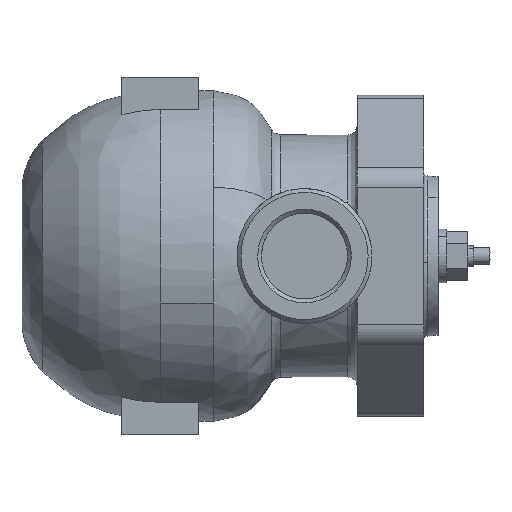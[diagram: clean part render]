
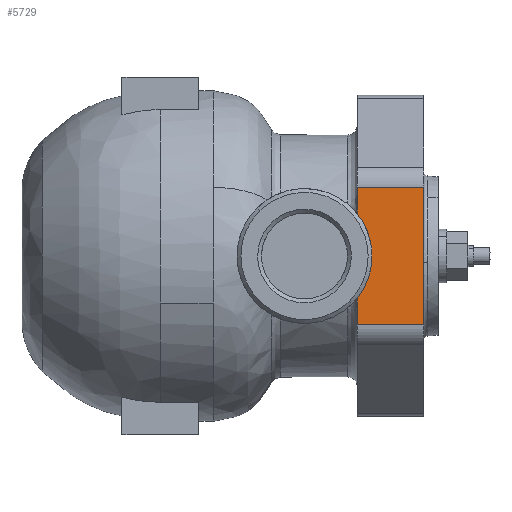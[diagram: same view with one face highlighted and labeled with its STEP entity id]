
A CAD part, left-side view. The second image highlights one B-rep face of the part: STEP entity #5729.
In plain terms, the highlighted free-form (B-spline) face has degree [1, 1] with [2, 2] control points.
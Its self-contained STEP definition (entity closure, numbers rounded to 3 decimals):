
#2667=CARTESIAN_POINT('',(-74.,-31.112,-16.212));
#2668=VERTEX_POINT('',#2667);
#2674=CARTESIAN_POINT('',(-74.,-27.5,21.784));
#2675=VERTEX_POINT('',#2674);
#2676=CARTESIAN_POINT('',(-74.,-31.112,-16.212));
#2677=CARTESIAN_POINT('',(-74.,-32.472,-13.603));
#2678=CARTESIAN_POINT('',(-74.,-34.31,-8.635));
#2679=CARTESIAN_POINT('',(-74.,-35.199,-1.829));
#2680=CARTESIAN_POINT('',(-74.,-34.969,4.487));
#2681=CARTESIAN_POINT('',(-74.,-33.796,10.07));
#2682=CARTESIAN_POINT('',(-74.,-31.319,16.229));
#2683=CARTESIAN_POINT('',(-74.,-29.066,19.807));
#2684=CARTESIAN_POINT('',(-74.,-27.5,21.784));
#2685=B_SPLINE_CURVE_WITH_KNOTS('',3,(#2676,#2677,#2678,#2679,#2680,#2681,#2682,#2683,#2684),.UNSPECIFIED.,.F.,.U.,(4,1,1,1,1,1,4),(0.,8.828,15.764,20.493,27.744,32.789,40.355),.UNSPECIFIED.);
#2686=EDGE_CURVE('',#2668,#2675,#2685,.T.);
#3100=CARTESIAN_POINT('',(-74.,-27.5,-21.784));
#3101=VERTEX_POINT('',#3100);
#3107=CARTESIAN_POINT('',(-74.,-27.5,-21.784));
#3108=CARTESIAN_POINT('',(-74.,-28.876,-20.046));
#3109=CARTESIAN_POINT('',(-74.,-30.088,-18.178));
#3110=CARTESIAN_POINT('',(-74.,-31.112,-16.212));
#3111=B_SPLINE_CURVE_WITH_KNOTS('',3,(#3107,#3108,#3109,#3110),.UNSPECIFIED.,.F.,.U.,(4,4),(0.,6.65),.UNSPECIFIED.);
#3112=EDGE_CURVE('',#3101,#2668,#3111,.T.);
#5535=CARTESIAN_POINT('',(-74.,-27.5,-35.796));
#5536=VERTEX_POINT('',#5535);
#5552=CARTESIAN_POINT('',(-74.,-27.5,-35.796));
#5553=CARTESIAN_POINT('',(-74.,-27.5,-21.784));
#5554=QUASI_UNIFORM_CURVE('',1,(#5552,#5553),.UNSPECIFIED.,.F.,.U.);
#5555=EDGE_CURVE('',#5536,#3101,#5554,.T.);
#5658=CARTESIAN_POINT('',(-74.,-62.,35.796));
#5659=VERTEX_POINT('',#5658);
#5676=CARTESIAN_POINT('',(-74.,-27.5,35.796));
#5677=VERTEX_POINT('',#5676);
#5693=CARTESIAN_POINT('',(-74.,-27.5,35.796));
#5694=CARTESIAN_POINT('',(-74.,-62.,35.796));
#5695=QUASI_UNIFORM_CURVE('',1,(#5693,#5694),.UNSPECIFIED.,.F.,.U.);
#5696=EDGE_CURVE('',#5677,#5659,#5695,.T.);
#5701=CARTESIAN_POINT('',(-74.,-63.723,39.372));
#5702=CARTESIAN_POINT('',(-74.,-63.723,-39.372));
#5703=CARTESIAN_POINT('',(-74.,-25.777,39.372));
#5704=CARTESIAN_POINT('',(-74.,-25.777,-39.372));
#5705=B_SPLINE_SURFACE_WITH_KNOTS('',1,1,((#5701,#5703),(#5702,#5704)),.UNSPECIFIED.,.F.,.F.,.U.,(2,2),(2,2),(0.,78.743),(0.,37.947),.UNSPECIFIED.);
#5706=ORIENTED_EDGE('',*,*,#2686,.F.);
#5707=ORIENTED_EDGE('',*,*,#3112,.F.);
#5708=ORIENTED_EDGE('',*,*,#5555,.F.);
#5709=CARTESIAN_POINT('',(-74.,-62.,-35.796));
#5710=VERTEX_POINT('',#5709);
#5711=CARTESIAN_POINT('',(-74.,-27.5,-35.796));
#5712=CARTESIAN_POINT('',(-74.,-62.,-35.796));
#5713=QUASI_UNIFORM_CURVE('',1,(#5711,#5712),.UNSPECIFIED.,.F.,.U.);
#5714=EDGE_CURVE('',#5536,#5710,#5713,.T.);
#5715=ORIENTED_EDGE('',*,*,#5714,.T.);
#5716=CARTESIAN_POINT('',(-74.,-62.,-35.796));
#5717=CARTESIAN_POINT('',(-74.,-62.,35.796));
#5718=QUASI_UNIFORM_CURVE('',1,(#5716,#5717),.UNSPECIFIED.,.F.,.U.);
#5719=EDGE_CURVE('',#5710,#5659,#5718,.T.);
#5720=ORIENTED_EDGE('',*,*,#5719,.T.);
#5721=ORIENTED_EDGE('',*,*,#5696,.F.);
#5722=CARTESIAN_POINT('',(-74.,-27.5,21.784));
#5723=CARTESIAN_POINT('',(-74.,-27.5,35.796));
#5724=QUASI_UNIFORM_CURVE('',1,(#5722,#5723),.UNSPECIFIED.,.F.,.U.);
#5725=EDGE_CURVE('',#2675,#5677,#5724,.T.);
#5726=ORIENTED_EDGE('',*,*,#5725,.F.);
#5727=EDGE_LOOP('',(#5706,#5707,#5708,#5715,#5720,#5721,#5726));
#5728=FACE_OUTER_BOUND('',#5727,.T.);
#5729=ADVANCED_FACE('',(#5728),#5705,.F.);
